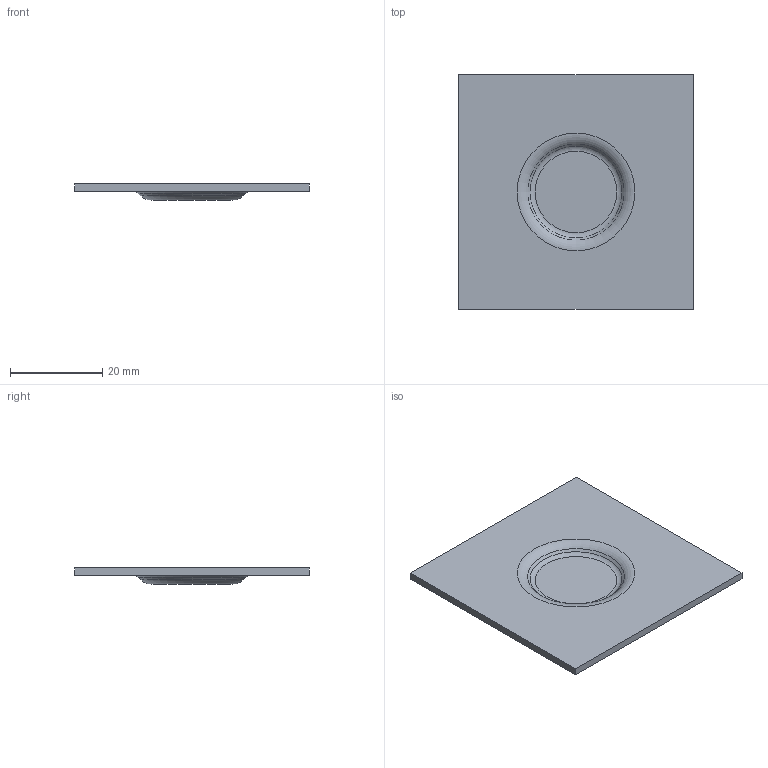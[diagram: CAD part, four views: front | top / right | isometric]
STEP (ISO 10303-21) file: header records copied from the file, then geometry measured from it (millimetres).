
FILE_DESCRIPTION(('PART XYZ REV A'),'1');
FILE_NAME('EF12','2012-03-29T22:58:28',('ERIC'),('TRIAX'),'Spatial Interop R21 SP3','Kubotek KeyCreator 2011 V10.5.0 (24766)','CHAZ');
FILE_SCHEMA(('CONFIG_CONTROL_DESIGN'));
Length unit declared in the file: inch
Products named in the file (1): 1
Bounding box: 50.81 x 50.78 x 3.5 mm (x, y, z)
Volume: 4191.1 mm3; surface area: 5564 mm2
Topology: 1 solids, 1 shells, 14 faces, 27 edges, 17 vertices
Faces by surface type: plane 8, torus 4, cone 2
Entity records: 360 total; most frequent: DIRECTION 58, CARTESIAN_POINT 51, ORIENTED_EDGE 40, AXIS2_PLACEMENT_3D 23, EDGE_LOOP 22, EDGE_CURVE 20, VERTEX_POINT 16, ADVANCED_FACE 14
